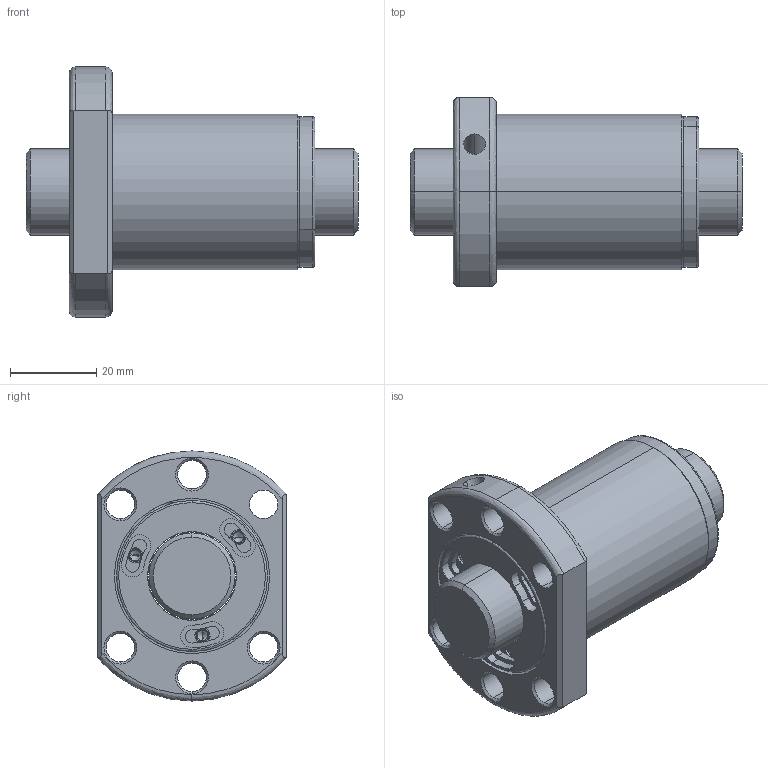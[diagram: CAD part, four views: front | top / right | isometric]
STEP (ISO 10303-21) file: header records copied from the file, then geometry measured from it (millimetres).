
FILE_DESCRIPTION (( 'STEP AP203' ), '1' );
FILE_NAME ('SFSR02010C1D-C.STEP', '2020-06-17T00:59:43', ( '' ), ( '' ), 'SwSTEP 2.0', 'SolidWorks 2013', '' );
FILE_SCHEMA (( 'CONFIG_CONTROL_DESIGN' ));
Length unit declared in the file: millimetre
Products named in the file (1): SFSR02010C1D-C
Bounding box: 77 x 44 x 58 mm (x, y, z)
Volume: 69935.5 mm3; surface area: 22771.3 mm2
Topology: 2 solids, 2 shells, 241 faces, 588 edges, 363 vertices
Faces by surface type: cylinder 125, plane 56, cone 50, bspline 10
Entity records: 7550 total; most frequent: CARTESIAN_POINT 1633, DIRECTION 1363, ORIENTED_EDGE 1152, AXIS2_PLACEMENT_3D 587, EDGE_CURVE 576, VERTEX_POINT 363, CIRCLE 355, EDGE_LOOP 283
